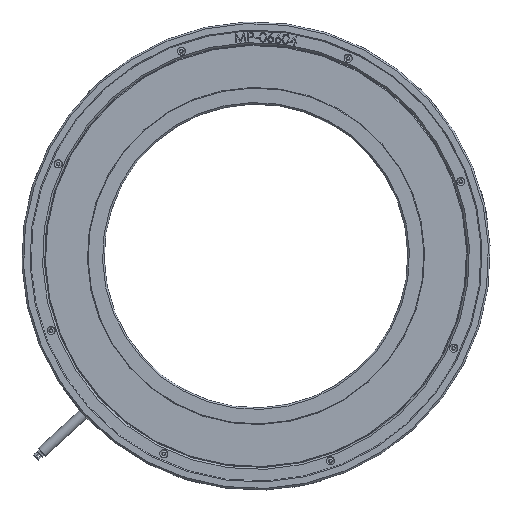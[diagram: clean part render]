
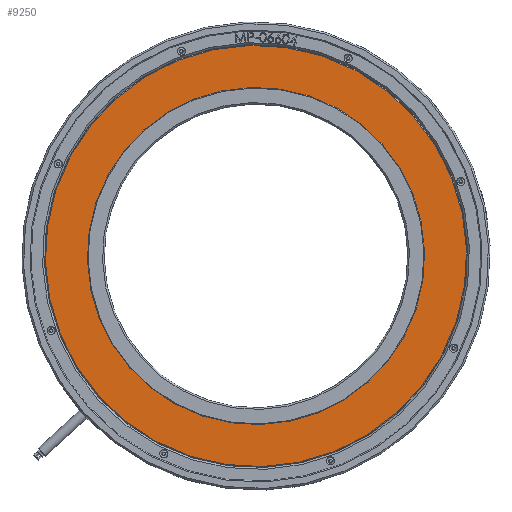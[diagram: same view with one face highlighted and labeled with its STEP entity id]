
A CAD part, front view. The second image highlights one B-rep face of the part: STEP entity #9250.
In plain terms, the highlighted planar face has unit normal (0, -1, 0).
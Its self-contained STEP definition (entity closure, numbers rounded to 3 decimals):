
#223 = CARTESIAN_POINT ( 'NONE',  ( 0., 0.2, 0. ) ) ;
#1726 = CARTESIAN_POINT ( 'NONE',  ( 0., 0.2, 0. ) ) ;
#2614 = AXIS2_PLACEMENT_3D ( 'NONE', #21128, #42515, #10656 ) ;
#3876 = VERTEX_POINT ( 'NONE', #11613 ) ;
#4523 = CARTESIAN_POINT ( 'NONE',  ( 0., 0.2, 52.2 ) ) ;
#4600 = CIRCLE ( 'NONE', #43240, 52.2 ) ;
#4917 = EDGE_CURVE ( 'NONE', #25495, #37414, #4600, .T. ) ;
#6504 = EDGE_LOOP ( 'NONE', ( #6565, #38416 ) ) ;
#6565 = ORIENTED_EDGE ( 'NONE', *, *, #39609, .T. ) ;
#8345 = AXIS2_PLACEMENT_3D ( 'NONE', #15305, #11808, #40618 ) ;
#9250 = ADVANCED_FACE ( 'NONE', ( #22455, #40775 ), #16356, .T. ) ;
#10656 = DIRECTION ( 'NONE',  ( 0., 0., -1. ) ) ;
#11265 = EDGE_CURVE ( 'NONE', #37414, #25495, #24917, .T. ) ;
#11574 = CARTESIAN_POINT ( 'NONE',  ( 0., 0.2, 65.2 ) ) ;
#11613 = CARTESIAN_POINT ( 'NONE',  ( 0., 0.2, -65.2 ) ) ;
#11808 = DIRECTION ( 'NONE',  ( 0., -1., 0. ) ) ;
#12887 = DIRECTION ( 'NONE',  ( 0., -1., 0. ) ) ;
#15305 = CARTESIAN_POINT ( 'NONE',  ( 0., 0.2, 0. ) ) ;
#15528 = DIRECTION ( 'NONE',  ( 0., -1., 0. ) ) ;
#16356 = PLANE ( 'NONE',  #29224 ) ;
#17232 = DIRECTION ( 'NONE',  ( 0., 0., -1. ) ) ;
#17344 = ORIENTED_EDGE ( 'NONE', *, *, #11265, .F. ) ;
#19246 = CARTESIAN_POINT ( 'NONE',  ( 0., 0.2, 0. ) ) ;
#21128 = CARTESIAN_POINT ( 'NONE',  ( 0., 0.2, 0. ) ) ;
#22455 = FACE_OUTER_BOUND ( 'NONE', #6504, .T. ) ;
#24917 = CIRCLE ( 'NONE', #2614, 52.2 ) ;
#25495 = VERTEX_POINT ( 'NONE', #4523 ) ;
#26785 = ORIENTED_EDGE ( 'NONE', *, *, #4917, .F. ) ;
#27576 = CIRCLE ( 'NONE', #8345, 65.2 ) ;
#29224 = AXIS2_PLACEMENT_3D ( 'NONE', #1726, #12887, #44268 ) ;
#29720 = DIRECTION ( 'NONE',  ( 0., 0., -1. ) ) ;
#33244 = CIRCLE ( 'NONE', #34742, 65.2 ) ;
#34742 = AXIS2_PLACEMENT_3D ( 'NONE', #223, #41879, #17232 ) ;
#37414 = VERTEX_POINT ( 'NONE', #45707 ) ;
#38416 = ORIENTED_EDGE ( 'NONE', *, *, #40450, .T. ) ;
#39609 = EDGE_CURVE ( 'NONE', #41602, #3876, #27576, .T. ) ;
#40450 = EDGE_CURVE ( 'NONE', #3876, #41602, #33244, .T. ) ;
#40618 = DIRECTION ( 'NONE',  ( 0., 0., -1. ) ) ;
#40775 = FACE_BOUND ( 'NONE', #45266, .T. ) ;
#41602 = VERTEX_POINT ( 'NONE', #11574 ) ;
#41879 = DIRECTION ( 'NONE',  ( 0., -1., 0. ) ) ;
#42515 = DIRECTION ( 'NONE',  ( 0., -1., 0. ) ) ;
#43240 = AXIS2_PLACEMENT_3D ( 'NONE', #19246, #15528, #29720 ) ;
#44268 = DIRECTION ( 'NONE',  ( 0., 0., -1. ) ) ;
#45266 = EDGE_LOOP ( 'NONE', ( #26785, #17344 ) ) ;
#45707 = CARTESIAN_POINT ( 'NONE',  ( 0., 0.2, -52.2 ) ) ;
